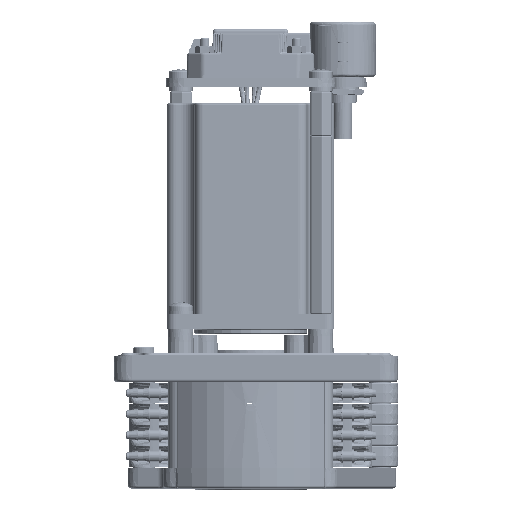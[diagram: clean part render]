
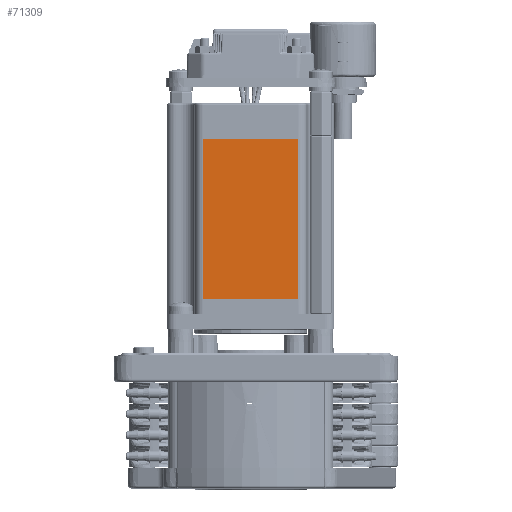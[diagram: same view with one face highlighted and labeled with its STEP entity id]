
A CAD part, front view. The second image highlights one B-rep face of the part: STEP entity #71309.
In plain terms, the highlighted planar face has unit normal (0, -1, 0).
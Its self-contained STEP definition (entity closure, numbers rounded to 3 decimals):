
#1370 = B_SPLINE_CURVE_WITH_KNOTS ( 'NONE', 3,
 ( #122904, #114083, #88419, #133193 ),
 .UNSPECIFIED., .F., .F.,
 ( 4, 4 ),
 ( 0., 1. ),
 .UNSPECIFIED. ) ;
#1669 = VECTOR ( 'NONE', #27527, 1000. ) ;
#2665 = VECTOR ( 'NONE', #104136, 1000. ) ;
#3319 = B_SPLINE_CURVE_WITH_KNOTS ( 'NONE', 3,
 ( #20039, #76647, #121406, #29656 ),
 .UNSPECIFIED., .F., .F.,
 ( 4, 4 ),
 ( 0., 1. ),
 .UNSPECIFIED. ) ;
#3633 = EDGE_CURVE ( 'NONE', #29403, #75344, #110243, .T. ) ;
#5015 = EDGE_CURVE ( 'NONE', #120737, #12315, #78764, .T. ) ;
#8911 = CARTESIAN_POINT ( 'NONE',  ( -17.674, -29.2, 82. ) ) ;
#9617 = CARTESIAN_POINT ( 'NONE',  ( -17.658, -29.2, 28. ) ) ;
#11817 = CARTESIAN_POINT ( 'NONE',  ( -17.666, -29.2, 82. ) ) ;
#12315 = VERTEX_POINT ( 'NONE', #52368 ) ;
#18964 = CARTESIAN_POINT ( 'NONE',  ( 14.174, -29.2, 82. ) ) ;
#19951 = CARTESIAN_POINT ( 'NONE',  ( -17.658, -29.2, 82. ) ) ;
#20039 = CARTESIAN_POINT ( 'NONE',  ( -17.65, -29.2, 82. ) ) ;
#24824 = CARTESIAN_POINT ( 'NONE',  ( -17.674, -29.2, 5.605 ) ) ;
#24939 = CARTESIAN_POINT ( 'NONE',  ( 14.174, -29.2, 28. ) ) ;
#26150 = EDGE_CURVE ( 'NONE', #44314, #120737, #103405, .T. ) ;
#27527 = DIRECTION ( 'NONE',  ( 0., 0., 1. ) ) ;
#29036 = CARTESIAN_POINT ( 'NONE',  ( -21.45, -29.2, 82. ) ) ;
#29403 = VERTEX_POINT ( 'NONE', #24939 ) ;
#29656 = CARTESIAN_POINT ( 'NONE',  ( 14.15, -29.2, 82. ) ) ;
#29761 = PLANE ( 'NONE',  #121365 ) ;
#30231 = VERTEX_POINT ( 'NONE', #76722 ) ;
#31215 = FACE_OUTER_BOUND ( 'NONE', #143325, .T. ) ;
#31512 = ORIENTED_EDGE ( 'NONE', *, *, #144245, .F. ) ;
#37102 = EDGE_CURVE ( 'NONE', #12315, #100996, #53314, .T. ) ;
#39462 = CARTESIAN_POINT ( 'NONE',  ( -17.65, -29.2, 28. ) ) ;
#40206 = ORIENTED_EDGE ( 'NONE', *, *, #136117, .F. ) ;
#41196 = ORIENTED_EDGE ( 'NONE', *, *, #70164, .F. ) ;
#43111 = CARTESIAN_POINT ( 'NONE',  ( -17.674, -29.2, 28. ) ) ;
#44314 = VERTEX_POINT ( 'NONE', #133839 ) ;
#48052 = CARTESIAN_POINT ( 'NONE',  ( -17.65, -29.2, 82. ) ) ;
#52368 = CARTESIAN_POINT ( 'NONE',  ( -17.65, -29.2, 28. ) ) ;
#53266 = CARTESIAN_POINT ( 'NONE',  ( 14.15, -29.2, 82. ) ) ;
#53314 = B_SPLINE_CURVE_WITH_KNOTS ( 'NONE', 3,
 ( #39462, #73256, #60776, #96700 ),
 .UNSPECIFIED., .F., .F.,
 ( 4, 4 ),
 ( 0., 1. ),
 .UNSPECIFIED. ) ;
#54522 = CARTESIAN_POINT ( 'NONE',  ( -17.65, -29.2, 28. ) ) ;
#54707 = CARTESIAN_POINT ( 'NONE',  ( 14.174, -29.2, 82. ) ) ;
#57405 = CARTESIAN_POINT ( 'NONE',  ( 14.166, -29.2, 82. ) ) ;
#58610 = CARTESIAN_POINT ( 'NONE',  ( 14.15, -29.2, 28. ) ) ;
#60776 = CARTESIAN_POINT ( 'NONE',  ( 3.55, -29.2, 28. ) ) ;
#62102 = ORIENTED_EDGE ( 'NONE', *, *, #37102, .T. ) ;
#65002 = DIRECTION ( 'NONE',  ( 1., 0., 0. ) ) ;
#65518 = CARTESIAN_POINT ( 'NONE',  ( -17.674, -29.2, 28. ) ) ;
#70164 = EDGE_CURVE ( 'NONE', #30231, #75344, #123310, .T. ) ;
#71309 = ADVANCED_FACE ( 'NONE', ( #31215 ), #29761, .F. ) ;
#73256 = CARTESIAN_POINT ( 'NONE',  ( -7.05, -29.2, 28. ) ) ;
#75344 = VERTEX_POINT ( 'NONE', #18964 ) ;
#76647 = CARTESIAN_POINT ( 'NONE',  ( -7.05, -29.2, 82. ) ) ;
#76722 = CARTESIAN_POINT ( 'NONE',  ( 14.15, -29.2, 82. ) ) ;
#78764 = B_SPLINE_CURVE_WITH_KNOTS ( 'NONE', 3,
 ( #65518, #110276, #9617, #54522 ),
 .UNSPECIFIED., .F., .F.,
 ( 4, 4 ),
 ( 0., 1. ),
 .UNSPECIFIED. ) ;
#80974 = ORIENTED_EDGE ( 'NONE', *, *, #84368, .T. ) ;
#84368 = EDGE_CURVE ( 'NONE', #100996, #29403, #1370, .T. ) ;
#84967 = ORIENTED_EDGE ( 'NONE', *, *, #3633, .T. ) ;
#86099 = VERTEX_POINT ( 'NONE', #48052 ) ;
#88419 = CARTESIAN_POINT ( 'NONE',  ( 14.166, -29.2, 28. ) ) ;
#93936 = ORIENTED_EDGE ( 'NONE', *, *, #26150, .T. ) ;
#96700 = CARTESIAN_POINT ( 'NONE',  ( 14.15, -29.2, 28. ) ) ;
#98019 = CARTESIAN_POINT ( 'NONE',  ( 14.158, -29.2, 82. ) ) ;
#99294 = CARTESIAN_POINT ( 'NONE',  ( -17.65, -29.2, 82. ) ) ;
#100996 = VERTEX_POINT ( 'NONE', #58610 ) ;
#103405 = LINE ( 'NONE', #24824, #2665 ) ;
#104136 = DIRECTION ( 'NONE',  ( 0., 0., -1. ) ) ;
#109027 = DIRECTION ( 'NONE',  ( 0., 1., 0. ) ) ;
#110243 = LINE ( 'NONE', #128120, #1669 ) ;
#110276 = CARTESIAN_POINT ( 'NONE',  ( -17.666, -29.2, 28. ) ) ;
#112741 = ORIENTED_EDGE ( 'NONE', *, *, #5015, .T. ) ;
#114083 = CARTESIAN_POINT ( 'NONE',  ( 14.158, -29.2, 28. ) ) ;
#120737 = VERTEX_POINT ( 'NONE', #43111 ) ;
#121365 = AXIS2_PLACEMENT_3D ( 'NONE', #29036, #109027, #65002 ) ;
#121406 = CARTESIAN_POINT ( 'NONE',  ( 3.55, -29.2, 82. ) ) ;
#122904 = CARTESIAN_POINT ( 'NONE',  ( 14.15, -29.2, 28. ) ) ;
#123310 = B_SPLINE_CURVE_WITH_KNOTS ( 'NONE', 3,
 ( #53266, #98019, #57405, #54707 ),
 .UNSPECIFIED., .F., .F.,
 ( 4, 4 ),
 ( 0., 1. ),
 .UNSPECIFIED. ) ;
#124151 = B_SPLINE_CURVE_WITH_KNOTS ( 'NONE', 3,
 ( #8911, #11817, #19951, #99294 ),
 .UNSPECIFIED., .F., .F.,
 ( 4, 4 ),
 ( 0., 1. ),
 .UNSPECIFIED. ) ;
#128120 = CARTESIAN_POINT ( 'NONE',  ( 14.174, -29.2, 5.605 ) ) ;
#133193 = CARTESIAN_POINT ( 'NONE',  ( 14.174, -29.2, 28. ) ) ;
#133839 = CARTESIAN_POINT ( 'NONE',  ( -17.674, -29.2, 82. ) ) ;
#136117 = EDGE_CURVE ( 'NONE', #44314, #86099, #124151, .T. ) ;
#143325 = EDGE_LOOP ( 'NONE', ( #40206, #93936, #112741, #62102, #80974, #84967, #41196, #31512 ) ) ;
#144245 = EDGE_CURVE ( 'NONE', #86099, #30231, #3319, .T. ) ;
